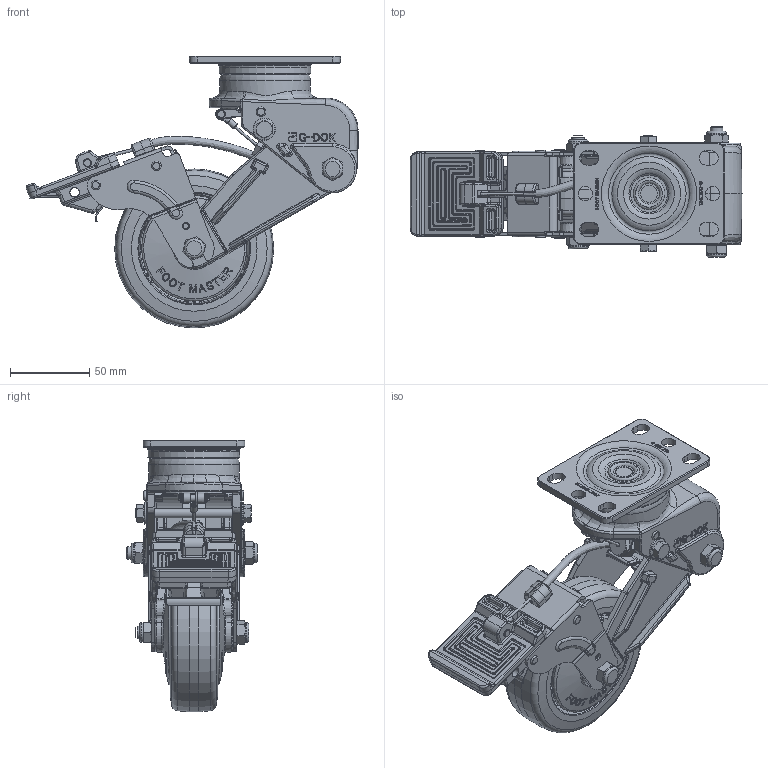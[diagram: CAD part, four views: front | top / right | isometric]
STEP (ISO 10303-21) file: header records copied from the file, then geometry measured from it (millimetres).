
FILE_DESCRIPTION(/* description */ (''),/* implementation_level */ '2;1');
FILE_NAME(/* name */ 'Z:\1.기술연구소\2.연구개발 진행중\25.충격흡수식_BBB\JYH\GDS-100-BB\2020년도\3.도면\1.3D\STEP-FILE\홈페이지용 3D_전달용\GDSB-100-BSF-LUD_PUS.stp',/* time_stamp */ '2021-10-08T19:55:09+09:00',/* author */ ('admin'),/* organization */ (''),/* preprocessor_version */ 'ST-DEVELOPER v18.1',/* originating_system */ 'Autodesk Inventor 2021',/* authorisation */ '');
FILE_SCHEMA (('AUTOMOTIVE_DESIGN { 1 0 10303 214 3 1 1 }'));
Products named in the file (1): GDSB-100-BSF-LUD_PUS
Bounding box: 208.83 x 82 x 171 mm (x, y, z)
Volume: 438937.7 mm3; surface area: 170898 mm2
Topology: 1 solids, 2 shells, 4299 faces, 10730 edges, 6496 vertices
Faces by surface type: plane 1445, bspline 1291, cylinder 1043, torus 253, cone 215, sphere 52
Full cylindrical faces by diameter (mm): 2 x2, 2.5 x1, 2.9 x4, 3 x3, 3.1 x4, 3.2 x2, 4 x4, 4.122 x2, 4.2 x7, 4.4 x2, 4.5 x2, 4.8 x2, 5 x4, 5.241 x4, 6 x6, 6.2 x2, 6.723 x1, 7.4 x1, 7.95 x5, 8 x2, 8.2 x2, 9 x2, 9.95 x1, 10.2 x4, 10.7 x2, 11.6 x2, 12.5 x4, 14 x2, 20 x1, 39 x1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
Entity records: 167100 total; most frequent: CARTESIAN_POINT 66118, ORIENTED_EDGE 21290, DIRECTION 18685, EDGE_CURVE 10645, AXIS2_PLACEMENT_3D 7126, VERTEX_POINT 6496, EDGE_LOOP 4538, LINE 4433
